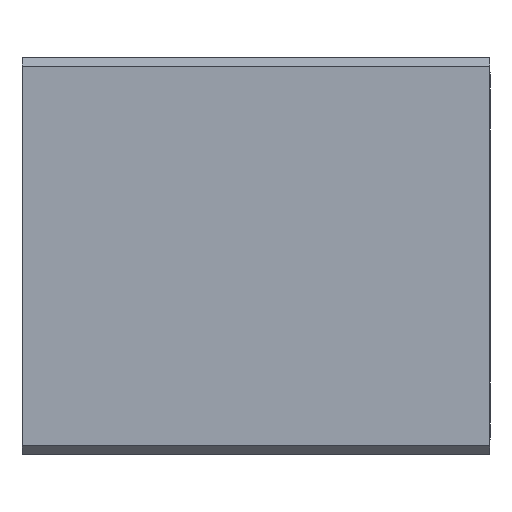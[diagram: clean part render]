
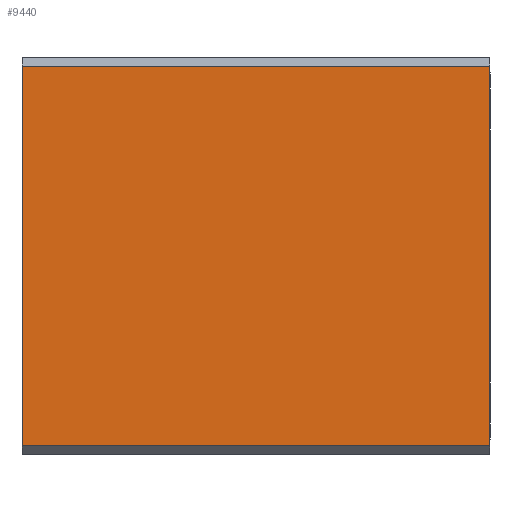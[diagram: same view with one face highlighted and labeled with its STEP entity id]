
A CAD part, front view. The second image highlights one B-rep face of the part: STEP entity #9440.
In plain terms, the highlighted planar face has unit normal (0, -1, 0).
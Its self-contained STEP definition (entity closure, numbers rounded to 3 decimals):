
#592 = ORIENTED_EDGE ( 'NONE', *, *, #9377, .F. ) ;
#1139 = VECTOR ( 'NONE', #10309, 1000. ) ;
#1186 = VECTOR ( 'NONE', #10090, 1000. ) ;
#2553 = CARTESIAN_POINT ( 'NONE',  ( 0., -22.5, -21.5 ) ) ;
#3444 = LINE ( 'NONE', #14077, #1139 ) ;
#3598 = LINE ( 'NONE', #4245, #6150 ) ;
#3658 = ORIENTED_EDGE ( 'NONE', *, *, #11074, .T. ) ;
#3956 = CARTESIAN_POINT ( 'NONE',  ( 53., -22.5, 21.5 ) ) ;
#4245 = CARTESIAN_POINT ( 'NONE',  ( 0., -22.5, 22.5 ) ) ;
#4273 = VERTEX_POINT ( 'NONE', #8842 ) ;
#4631 = VERTEX_POINT ( 'NONE', #2553 ) ;
#4780 = DIRECTION ( 'NONE',  ( 0., 0., -1. ) ) ;
#6122 = DIRECTION ( 'NONE',  ( 0., 0., 1. ) ) ;
#6125 = DIRECTION ( 'NONE',  ( 0., 1., 0. ) ) ;
#6136 = CARTESIAN_POINT ( 'NONE',  ( 53., -22.5, 22.5 ) ) ;
#6150 = VECTOR ( 'NONE', #4780, 1000. ) ;
#6478 = PLANE ( 'NONE',  #8126 ) ;
#6910 = DIRECTION ( 'NONE',  ( 0., 0., -1. ) ) ;
#6925 = CARTESIAN_POINT ( 'NONE',  ( 53., -22.5, 22.5 ) ) ;
#8126 = AXIS2_PLACEMENT_3D ( 'NONE', #6136, #6125, #6122 ) ;
#8842 = CARTESIAN_POINT ( 'NONE',  ( 0., -22.5, 21.5 ) ) ;
#8940 = FACE_OUTER_BOUND ( 'NONE', #9639, .T. ) ;
#9377 = EDGE_CURVE ( 'NONE', #11778, #11347, #10272, .T. ) ;
#9440 = ADVANCED_FACE ( 'NONE', ( #8940 ), #6478, .F. ) ;
#9609 = CARTESIAN_POINT ( 'NONE',  ( 53., -22.5, -21.5 ) ) ;
#9639 = EDGE_LOOP ( 'NONE', ( #3658, #12790, #592, #10874 ) ) ;
#10090 = DIRECTION ( 'NONE',  ( 1., 0., 0. ) ) ;
#10114 = CARTESIAN_POINT ( 'NONE',  ( 53., -22.5, -21.5 ) ) ;
#10272 = LINE ( 'NONE', #6925, #10305 ) ;
#10305 = VECTOR ( 'NONE', #6910, 1000. ) ;
#10309 = DIRECTION ( 'NONE',  ( -1., 0., 0. ) ) ;
#10874 = ORIENTED_EDGE ( 'NONE', *, *, #11311, .T. ) ;
#11074 = EDGE_CURVE ( 'NONE', #4273, #4631, #3598, .T. ) ;
#11308 = EDGE_CURVE ( 'NONE', #4631, #11347, #13618, .T. ) ;
#11311 = EDGE_CURVE ( 'NONE', #11778, #4273, #3444, .T. ) ;
#11347 = VERTEX_POINT ( 'NONE', #9609 ) ;
#11778 = VERTEX_POINT ( 'NONE', #3956 ) ;
#12790 = ORIENTED_EDGE ( 'NONE', *, *, #11308, .T. ) ;
#13618 = LINE ( 'NONE', #10114, #1186 ) ;
#14077 = CARTESIAN_POINT ( 'NONE',  ( 53., -22.5, 21.5 ) ) ;
